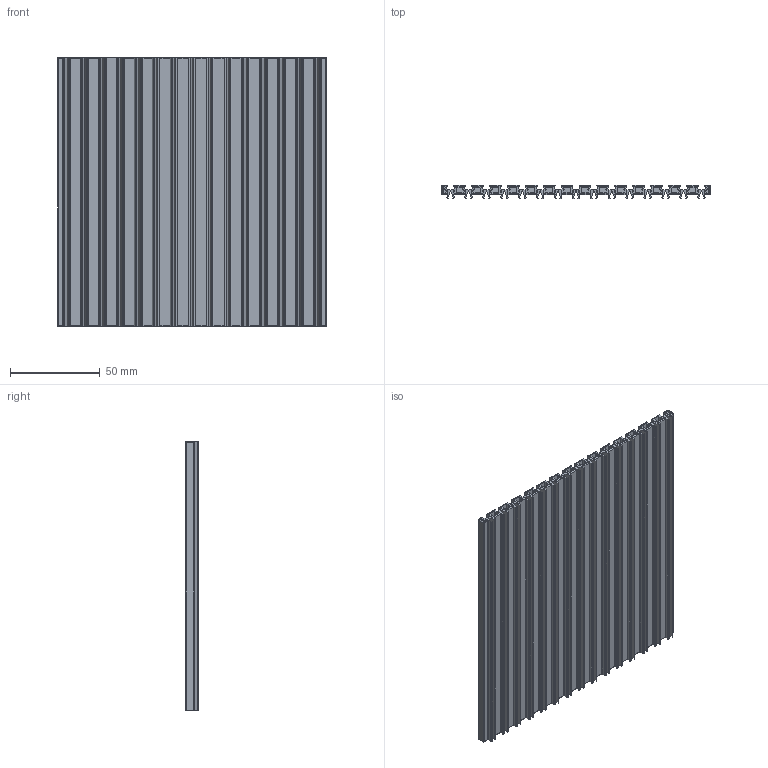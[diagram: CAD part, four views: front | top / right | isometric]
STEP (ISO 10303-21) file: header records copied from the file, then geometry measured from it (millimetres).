
FILE_DESCRIPTION(/* description */ (''),/* implementation_level */ '2;1');
FILE_NAME(/* name */ 'C:/Users/priba/Downloads/Brick15x15x0.5mf.step',/* time_stamp */ '2022-04-03T11:09:36+02:00',/* author */ (''),/* organization */ (''),/* preprocessor_version */ 'ST-DEVELOPER v18.1',/* originating_system */ 'Autodesk Translation Framework v10.13.0.1454',/* authorisation */ '');
FILE_SCHEMA (('AUTOMOTIVE_DESIGN { 1 0 10303 214 3 1 1 }'));
Length unit declared in the file: millimetre
Products named in the file (1): Brick15x15x0.5mf
Bounding box: 150 x 7.31 x 150 mm (x, y, z)
Volume: 66490 mm3; surface area: 139393.4 mm2
Topology: 1 solids, 1 shells, 583 faces, 1675 edges, 1110 vertices
Faces by surface type: plane 506, cylinder 71, sphere 6
Entity records: 18811 total; most frequent: CARTESIAN_POINT 3369, ORIENTED_EDGE 3350, DIRECTION 2983, EDGE_CURVE 1675, LINE 1535, VECTOR 1535, VERTEX_POINT 1110, AXIS2_PLACEMENT_3D 724
